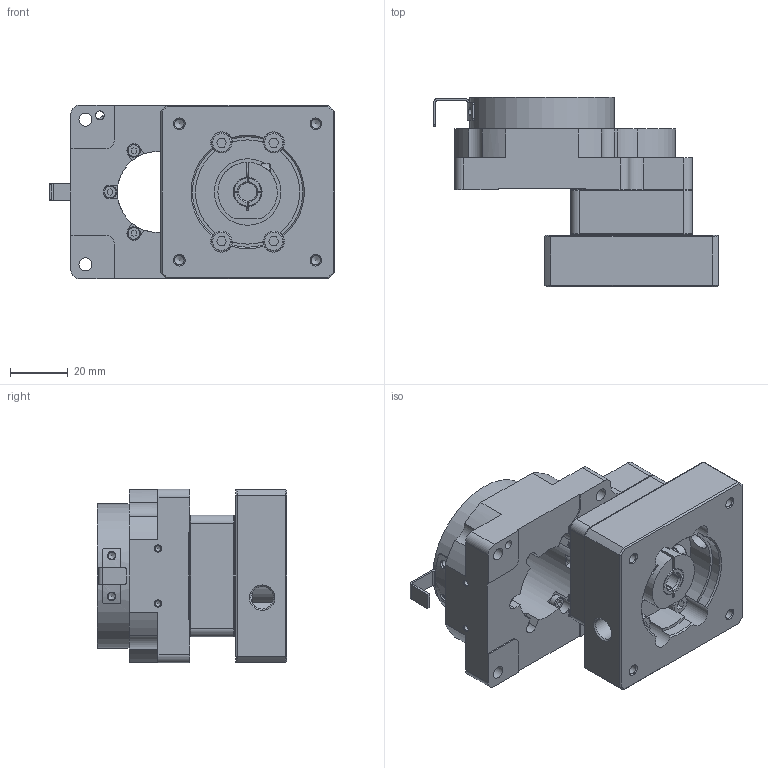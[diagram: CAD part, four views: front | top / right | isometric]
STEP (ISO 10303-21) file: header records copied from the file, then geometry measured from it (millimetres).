
FILE_DESCRIPTION(/* description */ ('STEP AP214'),/* implementation_level */ '2;1');
FILE_NAME(/* name */ 'WTN060-10-38.1-47.14-M4-6.35-26-60',/* time_stamp */ '2025-10-01T21:40:47+02:00',/* author */ ('License CC BY-ND 4.0'),/* organization */ ('CADENAS'),/* preprocessor_version */ 'ST-DEVELOPER v19.3',/* originating_system */ 'PARTsolutions',/* authorisation */ ' ');
FILE_SCHEMA (('AUTOMOTIVE_DESIGN {1 0 10303 214 3 1 1}'));
Length unit declared in the file: millimetre
Products named in the file (7): WTN060-10-38.1-47.14-M4-6.35-26-60; WTN060-10-38.1-47.14-M4-6.35-26-60_Dummy; WTN060_Box_Wtn_F; WTN060_Box_Wtn; DZ060-38.1-47.14-M4x10-4-60-18_Base3; RLZ060-6.35-26-4_Input shaft3; 042-SJT(M3)-10_Lock sleeve
Assembly tree (6 placements, depth 2):
  WTN060-10-38.1-47.14-M4-6.35-26-60
    WTN060-10-38.1-47.14-M4-6.35-26-60_Dummy
    WTN060_Box_Wtn_F
    WTN060_Box_Wtn
    DZ060-38.1-47.14-M4x10-4-60-18_Base3
    RLZ060-6.35-26-4_Input shaft3
    042-SJT(M3)-10_Lock sleeve
Bounding box: 98.4 x 65.5 x 60 mm (x, y, z)
Volume: 158205.1 mm3; surface area: 45518.1 mm2
Topology: 5 solids, 5 shells, 474 faces, 1219 edges, 790 vertices
Faces by surface type: plane 230, cylinder 154, cone 65, torus 25
Full cylindrical faces by diameter (mm): 2.013 x4, 2.459 x6, 2.5 x3, 2.9 x2, 3 x5, 3.242 x4, 3.3 x4, 4.5 x10, 5 x1, 5.5 x1, 6.35 x1, 7 x4, 7.8 x2, 11.5 x1, 15 x2, 16 x1, 23 x1, 28 x2, 31 x1, 40 x1, 50 x1, 58 x1
Entity records: 16553 total; most frequent: CARTESIAN_POINT 2697, DIRECTION 2290, ORIENTED_EDGE 2110, EDGE_CURVE 1055, AXIS2_PLACEMENT_3D 852, VERTEX_POINT 758, FACE_BOUND 667, EDGE_LOOP 646
